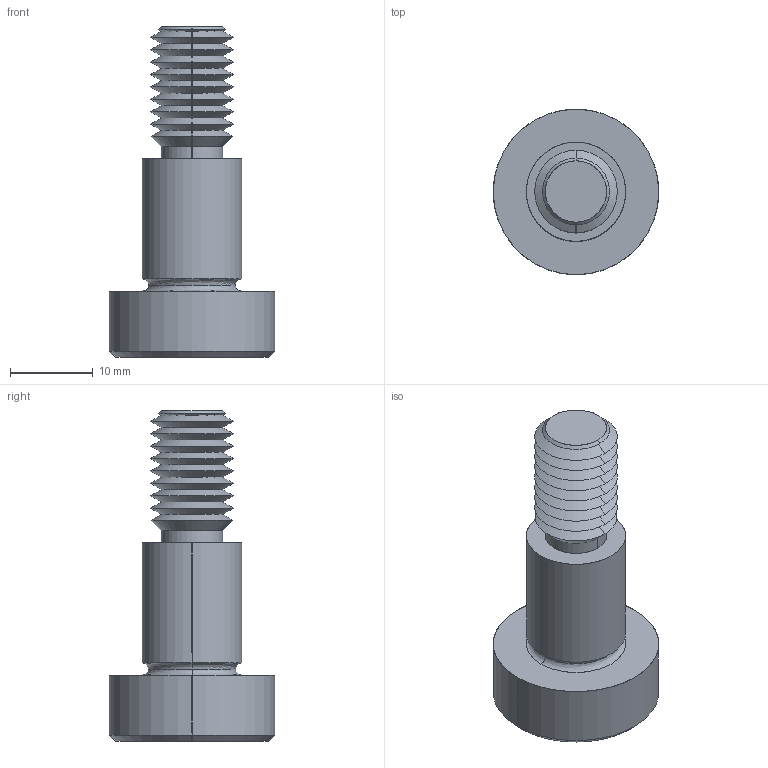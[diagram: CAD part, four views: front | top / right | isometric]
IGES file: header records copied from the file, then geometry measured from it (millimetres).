
Start section: SolidWorks IGES file using analytic representation for surfaces
Global section: file name: C:\Users\IanO\Documents\Temp Folder\GENERAL\SCREW REVISION\P0130_v2\P0130.T5_v2_20220106_IGES\P0130.120-016-T5.igs; native system: SolidWorks 2019; preprocessor: SolidWorks 2019; author: IanO; date: 220106.224551; units: millimetre
Bounding box: 20 x 20 x 40 mm (x, y, z)
Surface area: 2657.6 mm2 (no closed solid volume)
Topology: 0 solids, 0 shells, 76 faces, 564 edges, 562 vertices
Faces by surface type: revolution 56, bspline 20
